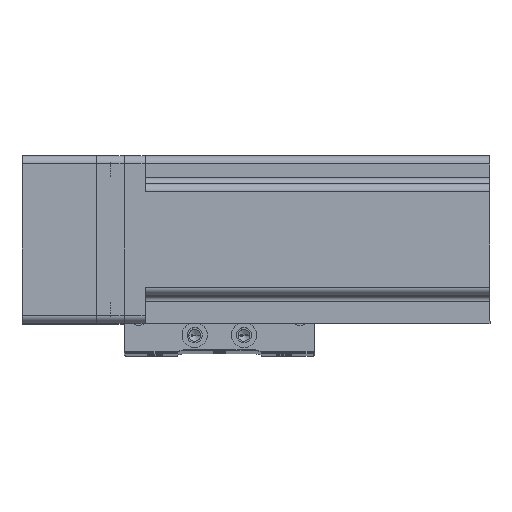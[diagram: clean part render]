
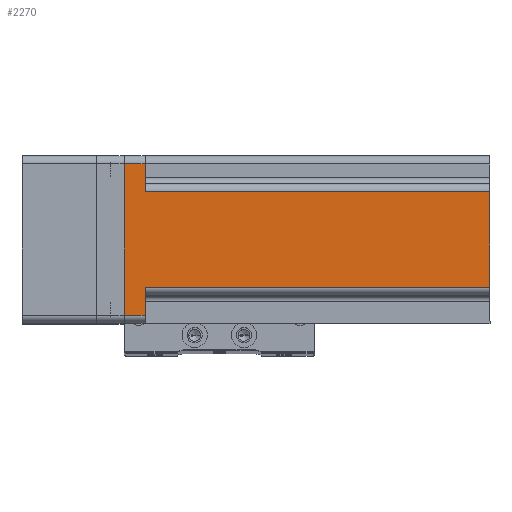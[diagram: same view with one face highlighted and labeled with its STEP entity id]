
A CAD part, top view. The second image highlights one B-rep face of the part: STEP entity #2270.
In plain terms, the highlighted planar face has unit normal (0, 0, 1) as drawn and (0, 1, 0) by its records, which use the part's own axes.
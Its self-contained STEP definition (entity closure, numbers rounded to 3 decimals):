
#348 = DIRECTION ( 'NONE',  ( -1., 0., 0. ) ) ;
#850 = EDGE_CURVE ( 'NONE', #3032, #11178, #44137, .T. ) ;
#1064 = AXIS2_PLACEMENT_3D ( 'NONE', #38099, #16847, #41699 ) ;
#1864 = CARTESIAN_POINT ( 'NONE',  ( -20., 30., 7.5 ) ) ;
#2026 = VERTEX_POINT ( 'NONE', #35351 ) ;
#2270 = ADVANCED_FACE ( 'NONE', ( #44051 ), #29630, .F. ) ;
#2408 = DIRECTION ( 'NONE',  ( 0., 0., 1. ) ) ;
#2930 = CARTESIAN_POINT ( 'NONE',  ( -17., 30., 130.7 ) ) ;
#3032 = VERTEX_POINT ( 'NONE', #25309 ) ;
#4013 = VECTOR ( 'NONE', #16535, 1000. ) ;
#4385 = VERTEX_POINT ( 'NONE', #30948 ) ;
#5464 = DIRECTION ( 'NONE',  ( 1., 0., 0. ) ) ;
#5816 = VECTOR ( 'NONE', #14773, 1000. ) ;
#7024 = ORIENTED_EDGE ( 'NONE', *, *, #31779, .T. ) ;
#8388 = LINE ( 'NONE', #42973, #17880 ) ;
#8601 = EDGE_CURVE ( 'NONE', #44315, #19679, #8388, .T. ) ;
#9120 = VECTOR ( 'NONE', #14373, 1000. ) ;
#11047 = CARTESIAN_POINT ( 'NONE',  ( 27., 30., 130.7 ) ) ;
#11178 = VERTEX_POINT ( 'NONE', #31388 ) ;
#12275 = ORIENTED_EDGE ( 'NONE', *, *, #23704, .T. ) ;
#13477 = LINE ( 'NONE', #30664, #4013 ) ;
#14017 = EDGE_CURVE ( 'NONE', #44315, #4385, #13477, .T. ) ;
#14373 = DIRECTION ( 'NONE',  ( -1., 0., 0. ) ) ;
#14773 = DIRECTION ( 'NONE',  ( 0., 0., -1. ) ) ;
#15147 = LINE ( 'NONE', #30701, #23500 ) ;
#15525 = DIRECTION ( 'NONE',  ( 0., 0., 1. ) ) ;
#16535 = DIRECTION ( 'NONE',  ( 0., 0., -1. ) ) ;
#16847 = DIRECTION ( 'NONE',  ( 0., -1., 0. ) ) ;
#16911 = VERTEX_POINT ( 'NONE', #17058 ) ;
#17058 = CARTESIAN_POINT ( 'NONE',  ( -27., 30., 7.5 ) ) ;
#17656 = CARTESIAN_POINT ( 'NONE',  ( 17., 30., 130.7 ) ) ;
#17880 = VECTOR ( 'NONE', #348, 1000. ) ;
#17985 = VECTOR ( 'NONE', #15525, 1000. ) ;
#19130 = CARTESIAN_POINT ( 'NONE',  ( -27., 30., 130.7 ) ) ;
#19679 = VERTEX_POINT ( 'NONE', #2930 ) ;
#19896 = VERTEX_POINT ( 'NONE', #43021 ) ;
#20017 = EDGE_CURVE ( 'NONE', #11178, #16911, #20207, .T. ) ;
#20207 = LINE ( 'NONE', #19130, #17985 ) ;
#20236 = EDGE_CURVE ( 'NONE', #2026, #19679, #15147, .T. ) ;
#23500 = VECTOR ( 'NONE', #2408, 1000. ) ;
#23704 = EDGE_CURVE ( 'NONE', #16911, #2026, #38648, .T. ) ;
#23885 = ORIENTED_EDGE ( 'NONE', *, *, #20236, .T. ) ;
#24723 = LINE ( 'NONE', #11047, #5816 ) ;
#24799 = ORIENTED_EDGE ( 'NONE', *, *, #20017, .T. ) ;
#25234 = VECTOR ( 'NONE', #33210, 1000. ) ;
#25309 = CARTESIAN_POINT ( 'NONE',  ( 27., 30., 0. ) ) ;
#29202 = VECTOR ( 'NONE', #5464, 1000. ) ;
#29630 = PLANE ( 'NONE',  #1064 ) ;
#30664 = CARTESIAN_POINT ( 'NONE',  ( 17., 30., 130.7 ) ) ;
#30701 = CARTESIAN_POINT ( 'NONE',  ( -17., 30., 130.7 ) ) ;
#30948 = CARTESIAN_POINT ( 'NONE',  ( 17., 30., 7.5 ) ) ;
#31388 = CARTESIAN_POINT ( 'NONE',  ( -27., 30., 0. ) ) ;
#31779 = EDGE_CURVE ( 'NONE', #19896, #3032, #24723, .T. ) ;
#33210 = DIRECTION ( 'NONE',  ( -1., 0., 0. ) ) ;
#35351 = CARTESIAN_POINT ( 'NONE',  ( -17., 30., 7.5 ) ) ;
#35603 = CARTESIAN_POINT ( 'NONE',  ( 20., 30., 7.5 ) ) ;
#36332 = LINE ( 'NONE', #35603, #9120 ) ;
#36617 = CARTESIAN_POINT ( 'NONE',  ( 30., 30., 0. ) ) ;
#38099 = CARTESIAN_POINT ( 'NONE',  ( 30., 30., 130.7 ) ) ;
#38400 = ORIENTED_EDGE ( 'NONE', *, *, #8601, .F. ) ;
#38523 = ORIENTED_EDGE ( 'NONE', *, *, #850, .T. ) ;
#38648 = LINE ( 'NONE', #1864, #29202 ) ;
#40808 = EDGE_LOOP ( 'NONE', ( #12275, #23885, #38400, #41018, #41318, #7024, #38523, #24799 ) ) ;
#41018 = ORIENTED_EDGE ( 'NONE', *, *, #14017, .T. ) ;
#41318 = ORIENTED_EDGE ( 'NONE', *, *, #46044, .F. ) ;
#41699 = DIRECTION ( 'NONE',  ( 1., 0., 0. ) ) ;
#42973 = CARTESIAN_POINT ( 'NONE',  ( 30., 30., 130.7 ) ) ;
#43021 = CARTESIAN_POINT ( 'NONE',  ( 27., 30., 7.5 ) ) ;
#44051 = FACE_OUTER_BOUND ( 'NONE', #40808, .T. ) ;
#44137 = LINE ( 'NONE', #36617, #25234 ) ;
#44315 = VERTEX_POINT ( 'NONE', #17656 ) ;
#46044 = EDGE_CURVE ( 'NONE', #19896, #4385, #36332, .T. ) ;
